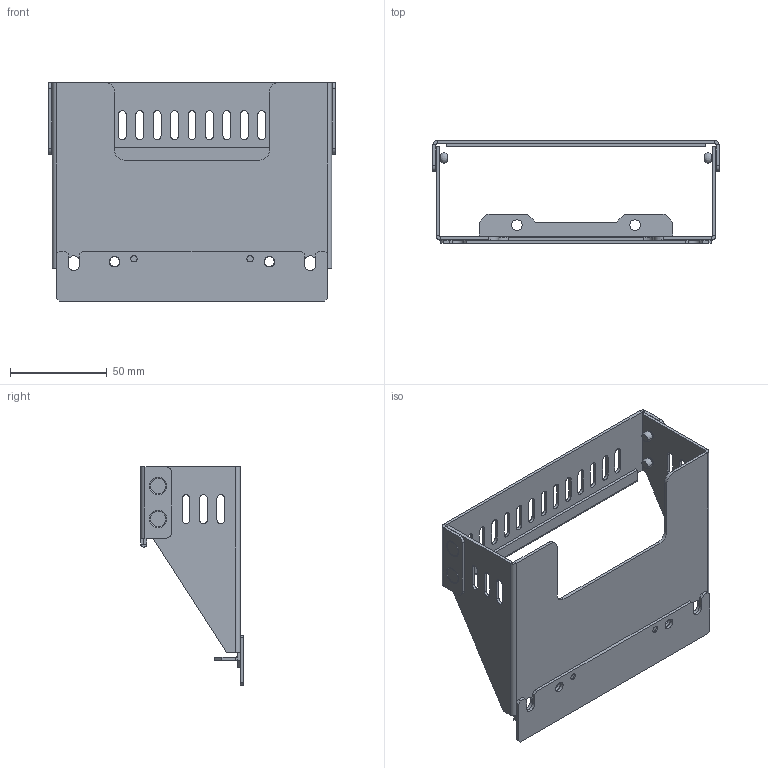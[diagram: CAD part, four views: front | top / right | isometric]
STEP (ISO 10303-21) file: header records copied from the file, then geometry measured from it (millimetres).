
FILE_DESCRIPTION((''),'2;1');
FILE_NAME('ZHZ-GA50V5_ASM','2020-10-19T',('anm'),('YASKAWA ELECTRIC CORCORATION'),'PRO/ENGINEER BY PARAMETRIC TECHNOLOGY CORPORATION, 2015440','PRO/ENGINEER BY PARAMETRIC TECHNOLOGY CORPORATION, 2015440','');
FILE_SCHEMA(('CONFIG_CONTROL_DESIGN'));
Length unit declared in the file: millimetre
Products named in the file (7): 400-125-062_1_1; 400-125-062_1_2; 400-125-062_1_ASM; 400-125-062_2_2; SK53BS_I2; 400-125-062_ASM; ZHZ-GA50V5_ASM
Assembly tree (9 placements, depth 4):
  ZHZ-GA50V5_ASM
    400-125-062_ASM
      400-125-062_1_ASM
        400-125-062_1_1
        400-125-062_1_2
      400-125-062_2_2
      SK53BS_I2  x4
Bounding box: 148 x 53 x 113 mm (x, y, z)
Volume: 46298.4 mm3; surface area: 62038.6 mm2
Topology: 7 solids, 7 shells, 297 faces, 757 edges, 478 vertices
Faces by surface type: plane 154, cylinder 111, bspline 16, cone 16
Entity records: 9615 total; most frequent: CARTESIAN_POINT 2552, DIRECTION 1459, ORIENTED_EDGE 1406, EDGE_CURVE 703, AXIS2_PLACEMENT_3D 491, VECTOR 477, LINE 477, VERTEX_POINT 448
